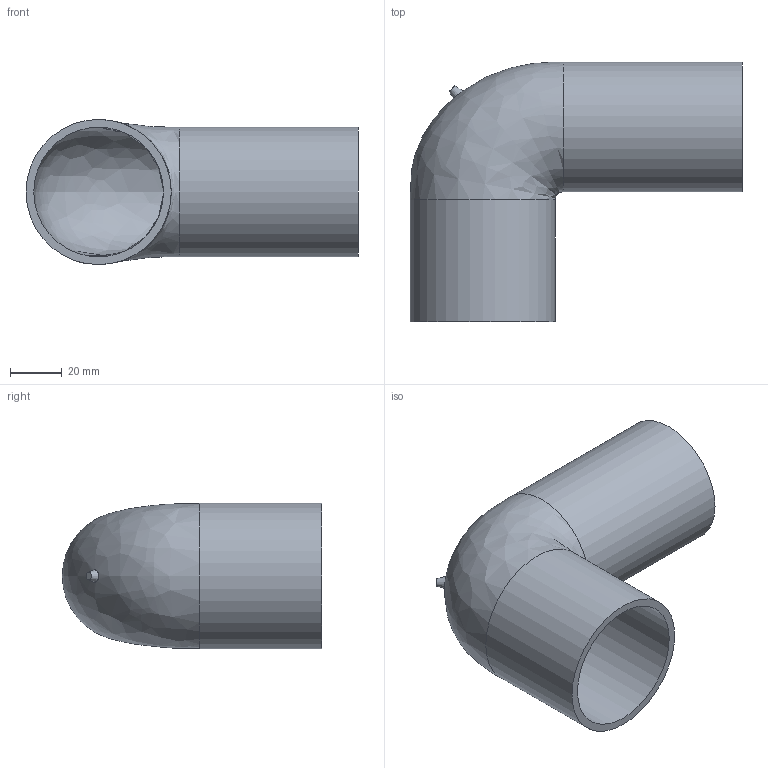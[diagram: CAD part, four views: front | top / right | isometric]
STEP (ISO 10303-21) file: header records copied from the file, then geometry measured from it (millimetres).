
FILE_DESCRIPTION(/* description */ (''),/* implementation_level */ '2;1');
FILE_NAME(/* name */ 'Z:\Geberit\Export\NewStep\363083.stp',/* time_stamp */ '2014-04-01T21:08:46+02:00',/* author */ ('nelson'),/* organization */ (''),/* preprocessor_version */ 'ST-DEVELOPER v15.2',/* originating_system */ 'Autodesk Inventor 2014',/* authorisation */ '');
FILE_SCHEMA (('AUTOMOTIVE_DESIGN { 1 0 10303 214 3 1 1 }'));
Length unit declared in the file: millimetre
Products named in the file (1): 363083
Bounding box: 128 x 100 x 56 mm (x, y, z)
Volume: 76636.6 mm3; surface area: 52036.2 mm2
Topology: 1 solids, 1 shells, 10 faces, 20 edges, 12 vertices
Faces by surface type: cylinder 4, plane 3, bspline 2, cone 1
Full cylindrical faces by diameter (mm): 44 x1, 50 x2, 56 x1
Entity records: 976 total; most frequent: CARTESIAN_POINT 776, DIRECTION 36, ORIENTED_EDGE 28, AXIS2_PLACEMENT_3D 18, EDGE_LOOP 17, EDGE_CURVE 14, VERTEX_POINT 11, ADVANCED_FACE 10
